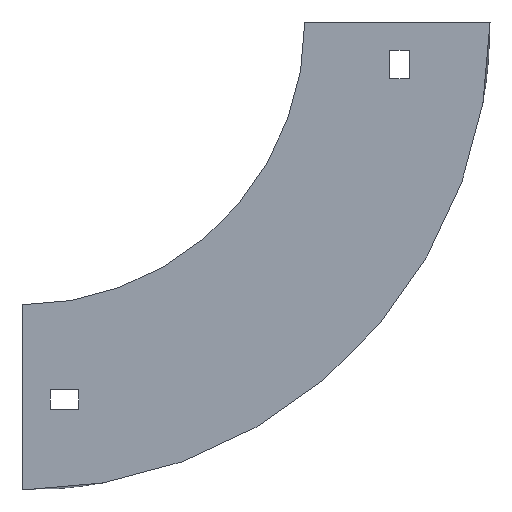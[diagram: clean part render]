
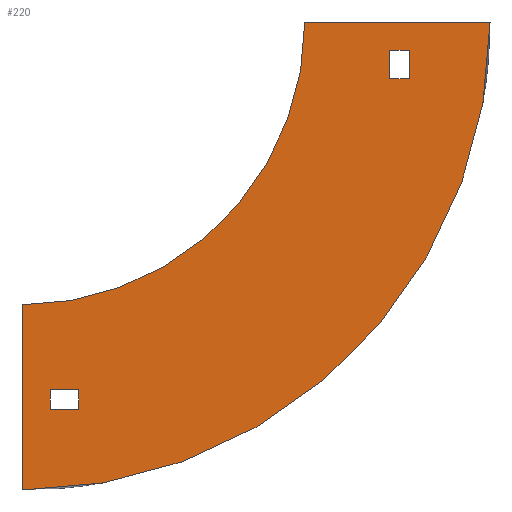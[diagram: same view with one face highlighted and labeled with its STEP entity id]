
A CAD part, left-side view. The second image highlights one B-rep face of the part: STEP entity #220.
In plain terms, the highlighted planar face has unit normal (-1, 0, 0).
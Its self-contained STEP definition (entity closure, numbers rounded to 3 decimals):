
#4 = ORIENTED_EDGE ( 'NONE', *, *, #508, .F. ) ;
#19 = DIRECTION ( 'NONE',  ( 0., 0., -1. ) ) ;
#31 = LINE ( 'NONE', #752, #462 ) ;
#33 = CIRCLE ( 'NONE', #613, 100. ) ;
#44 = CARTESIAN_POINT ( 'NONE',  ( -302., 100., 0. ) ) ;
#50 = VECTOR ( 'NONE', #19, 1000. ) ;
#57 = DIRECTION ( 'NONE',  ( 0., 0., -1. ) ) ;
#92 = EDGE_LOOP ( 'NONE', ( #4, #382, #583, #392 ) ) ;
#96 = LINE ( 'NONE', #365, #201 ) ;
#97 = VERTEX_POINT ( 'NONE', #473 ) ;
#101 = VERTEX_POINT ( 'NONE', #990 ) ;
#103 = CARTESIAN_POINT ( 'NONE',  ( -302., -30., -20. ) ) ;
#119 = VERTEX_POINT ( 'NONE', #286 ) ;
#147 = LINE ( 'NONE', #395, #833 ) ;
#170 = DIRECTION ( 'NONE',  ( 0., 1., 0. ) ) ;
#176 = CARTESIAN_POINT ( 'NONE',  ( -302., 0., 0. ) ) ;
#181 = CARTESIAN_POINT ( 'NONE',  ( -302., 90., -130. ) ) ;
#186 = EDGE_CURVE ( 'NONE', #942, #295, #380, .T. ) ;
#197 = DIRECTION ( 'NONE',  ( -1., 0., 0. ) ) ;
#201 = VECTOR ( 'NONE', #469, 1000. ) ;
#211 = CARTESIAN_POINT ( 'NONE',  ( -302., -30., -20. ) ) ;
#216 = VECTOR ( 'NONE', #274, 1000. ) ;
#220 = ADVANCED_FACE ( 'NONE', ( #683, #1034, #775 ), #853, .F. ) ;
#237 = DIRECTION ( 'NONE',  ( 1., 0., 0. ) ) ;
#244 = DIRECTION ( 'NONE',  ( 0., 0., 1. ) ) ;
#274 = DIRECTION ( 'NONE',  ( 0., -1., 0. ) ) ;
#286 = CARTESIAN_POINT ( 'NONE',  ( -302., -65.5, 0. ) ) ;
#295 = VERTEX_POINT ( 'NONE', #601 ) ;
#300 = ORIENTED_EDGE ( 'NONE', *, *, #686, .F. ) ;
#311 = ORIENTED_EDGE ( 'NONE', *, *, #1146, .F. ) ;
#322 = DIRECTION ( 'NONE',  ( 0., 0., -1. ) ) ;
#328 = CARTESIAN_POINT ( 'NONE',  ( -302., 80., -130. ) ) ;
#334 = CARTESIAN_POINT ( 'NONE',  ( -302., -30., -10. ) ) ;
#341 = LINE ( 'NONE', #1056, #1057 ) ;
#365 = CARTESIAN_POINT ( 'NONE',  ( -302., 100., -100. ) ) ;
#371 = CARTESIAN_POINT ( 'NONE',  ( -302., 80., -137. ) ) ;
#380 = LINE ( 'NONE', #460, #50 ) ;
#382 = ORIENTED_EDGE ( 'NONE', *, *, #916, .F. ) ;
#384 = VECTOR ( 'NONE', #626, 1000. ) ;
#392 = ORIENTED_EDGE ( 'NONE', *, *, #740, .F. ) ;
#395 = CARTESIAN_POINT ( 'NONE',  ( -302., 90., -137. ) ) ;
#398 = CARTESIAN_POINT ( 'NONE',  ( -302., 100., 0. ) ) ;
#405 = VECTOR ( 'NONE', #244, 1000. ) ;
#419 = CARTESIAN_POINT ( 'NONE',  ( -302., -30., -10. ) ) ;
#432 = LINE ( 'NONE', #788, #851 ) ;
#435 = VERTEX_POINT ( 'NONE', #176 ) ;
#460 = CARTESIAN_POINT ( 'NONE',  ( -302., -37., -10. ) ) ;
#461 = DIRECTION ( 'NONE',  ( 0., 0., -1. ) ) ;
#462 = VECTOR ( 'NONE', #655, 1000. ) ;
#466 = LINE ( 'NONE', #998, #384 ) ;
#469 = DIRECTION ( 'NONE',  ( 0., 0., 1. ) ) ;
#473 = CARTESIAN_POINT ( 'NONE',  ( -302., 100., -100. ) ) ;
#495 = VERTEX_POINT ( 'NONE', #419 ) ;
#508 = EDGE_CURVE ( 'NONE', #627, #101, #341, .T. ) ;
#542 = ORIENTED_EDGE ( 'NONE', *, *, #645, .F. ) ;
#545 = ORIENTED_EDGE ( 'NONE', *, *, #699, .F. ) ;
#570 = VECTOR ( 'NONE', #731, 1000. ) ;
#583 = ORIENTED_EDGE ( 'NONE', *, *, #1001, .F. ) ;
#597 = EDGE_CURVE ( 'NONE', #295, #1012, #739, .T. ) ;
#601 = CARTESIAN_POINT ( 'NONE',  ( -302., -37., -20. ) ) ;
#613 = AXIS2_PLACEMENT_3D ( 'NONE', #1086, #197, #461 ) ;
#626 = DIRECTION ( 'NONE',  ( 0., -1., 0. ) ) ;
#627 = VERTEX_POINT ( 'NONE', #181 ) ;
#634 = EDGE_CURVE ( 'NONE', #495, #942, #807, .T. ) ;
#643 = CARTESIAN_POINT ( 'NONE',  ( -302., -30., -10. ) ) ;
#644 = VERTEX_POINT ( 'NONE', #371 ) ;
#645 = EDGE_CURVE ( 'NONE', #435, #119, #466, .T. ) ;
#655 = DIRECTION ( 'NONE',  ( 0., 0., 1. ) ) ;
#683 = FACE_OUTER_BOUND ( 'NONE', #984, .T. ) ;
#686 = EDGE_CURVE ( 'NONE', #988, #97, #96, .T. ) ;
#699 = EDGE_CURVE ( 'NONE', #97, #435, #33, .T. ) ;
#727 = CARTESIAN_POINT ( 'NONE',  ( -302., 100., -165.5 ) ) ;
#731 = DIRECTION ( 'NONE',  ( 0., 1., 0. ) ) ;
#737 = EDGE_LOOP ( 'NONE', ( #999, #1072, #1097, #785 ) ) ;
#739 = LINE ( 'NONE', #103, #570 ) ;
#740 = EDGE_CURVE ( 'NONE', #101, #644, #147, .T. ) ;
#750 = DIRECTION ( 'NONE',  ( 0., -1., 0. ) ) ;
#752 = CARTESIAN_POINT ( 'NONE',  ( -302., 80., -130. ) ) ;
#775 = FACE_BOUND ( 'NONE', #92, .T. ) ;
#776 = LINE ( 'NONE', #334, #405 ) ;
#779 = DIRECTION ( 'NONE',  ( 0., 0., -1. ) ) ;
#785 = ORIENTED_EDGE ( 'NONE', *, *, #597, .T. ) ;
#788 = CARTESIAN_POINT ( 'NONE',  ( -302., 90., -130. ) ) ;
#796 = AXIS2_PLACEMENT_3D ( 'NONE', #44, #237, #322 ) ;
#807 = LINE ( 'NONE', #643, #216 ) ;
#833 = VECTOR ( 'NONE', #750, 1000. ) ;
#835 = AXIS2_PLACEMENT_3D ( 'NONE', #398, #864, #57 ) ;
#851 = VECTOR ( 'NONE', #170, 1000. ) ;
#853 = PLANE ( 'NONE',  #796 ) ;
#864 = DIRECTION ( 'NONE',  ( 1., 0., 0. ) ) ;
#877 = CARTESIAN_POINT ( 'NONE',  ( -302., -37., -10. ) ) ;
#888 = VERTEX_POINT ( 'NONE', #328 ) ;
#916 = EDGE_CURVE ( 'NONE', #888, #627, #432, .T. ) ;
#942 = VERTEX_POINT ( 'NONE', #877 ) ;
#971 = EDGE_CURVE ( 'NONE', #1012, #495, #776, .T. ) ;
#984 = EDGE_LOOP ( 'NONE', ( #545, #300, #311, #542 ) ) ;
#988 = VERTEX_POINT ( 'NONE', #727 ) ;
#990 = CARTESIAN_POINT ( 'NONE',  ( -302., 90., -137. ) ) ;
#998 = CARTESIAN_POINT ( 'NONE',  ( -302., -65.5, 0. ) ) ;
#999 = ORIENTED_EDGE ( 'NONE', *, *, #971, .T. ) ;
#1001 = EDGE_CURVE ( 'NONE', #644, #888, #31, .T. ) ;
#1012 = VERTEX_POINT ( 'NONE', #211 ) ;
#1034 = FACE_BOUND ( 'NONE', #737, .T. ) ;
#1056 = CARTESIAN_POINT ( 'NONE',  ( -302., 90., -130. ) ) ;
#1057 = VECTOR ( 'NONE', #779, 1000. ) ;
#1072 = ORIENTED_EDGE ( 'NONE', *, *, #634, .T. ) ;
#1086 = CARTESIAN_POINT ( 'NONE',  ( -302., 100., 0. ) ) ;
#1097 = ORIENTED_EDGE ( 'NONE', *, *, #186, .T. ) ;
#1114 = CIRCLE ( 'NONE', #835, 165.5 ) ;
#1146 = EDGE_CURVE ( 'NONE', #119, #988, #1114, .T. ) ;
